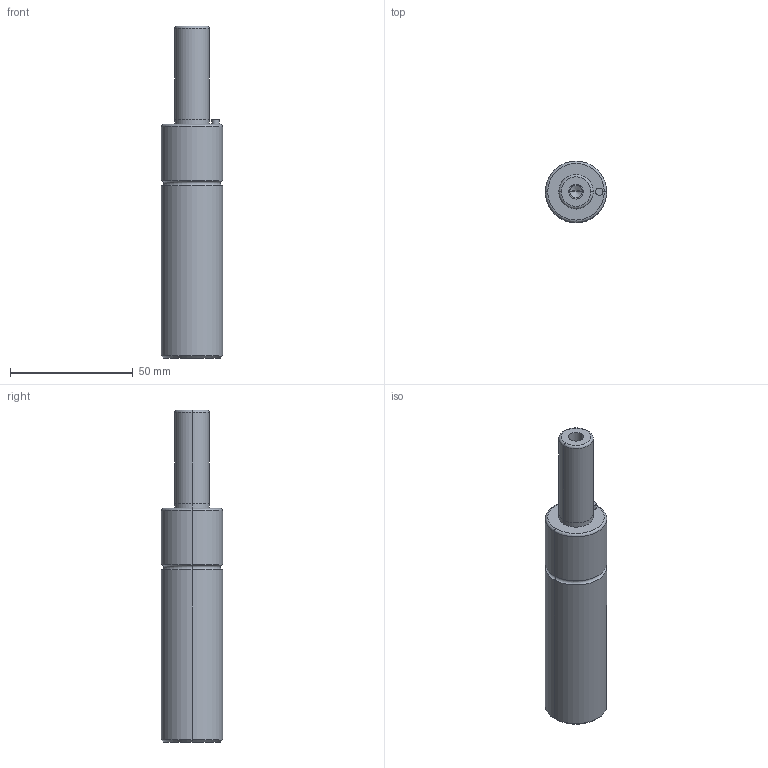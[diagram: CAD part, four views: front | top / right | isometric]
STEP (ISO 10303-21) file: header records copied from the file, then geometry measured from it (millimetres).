
FILE_DESCRIPTION(/* description */ (''),/* implementation_level */ '2;1');
FILE_NAME(/* name */ '3d_gsm25-38_03949_r00.stp',/* time_stamp */ '2011-01-10T14:15:17+09:00',/* author */ ('MISUMI'),/* organization */ (''),/* preprocessor_version */ 'ST-DEVELOPER v11',/* originating_system */ 'UGS - NX 5.0',/* authorisation */ '');
FILE_SCHEMA (('CONFIG_CONTROL_DESIGN'));
Length unit declared in the file: millimetre
Products named in the file (1): 3d_gsm25-38_03949_r00
Bounding box: 25 x 25 x 135 mm (x, y, z)
Volume: 52079.1 mm3; surface area: 10562 mm2
Topology: 1 solids, 1 shells, 36 faces, 74 edges, 42 vertices
Faces by surface type: cylinder 18, cone 6, plane 6, torus 6
Entity records: 1014 total; most frequent: DIRECTION 190, CARTESIAN_POINT 149, ORIENTED_EDGE 140, AXIS2_PLACEMENT_3D 83, EDGE_CURVE 70, CIRCLE 46, EDGE_LOOP 42, VERTEX_POINT 42
